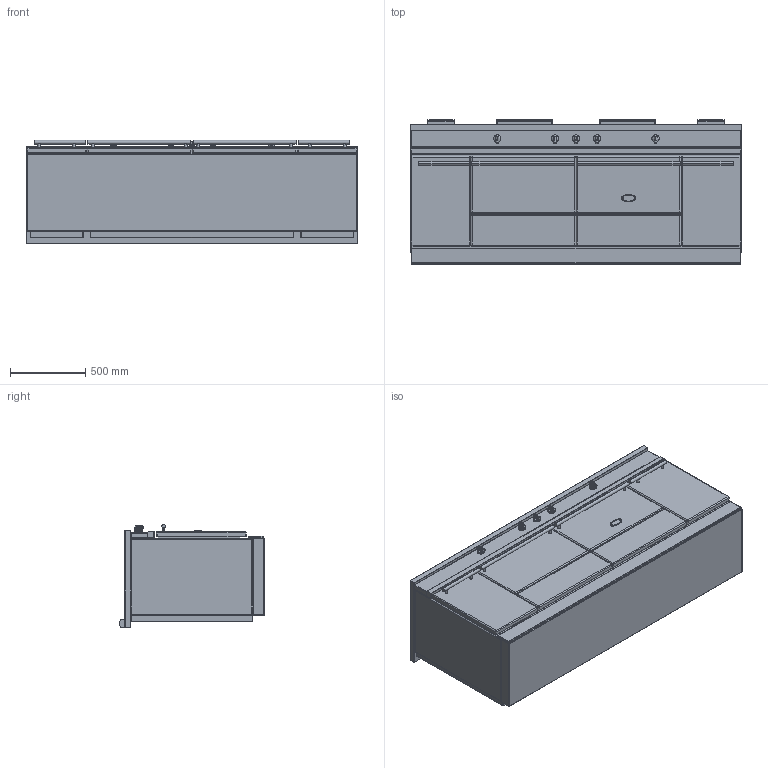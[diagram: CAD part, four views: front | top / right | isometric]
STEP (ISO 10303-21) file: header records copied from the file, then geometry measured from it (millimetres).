
FILE_DESCRIPTION((''),'2;1');
FILE_NAME('LMVI2232_ASM','2022-04-13T11:57:42',('stagiaire'),(''),'CREO PARAMETRIC BY PTC INC, 2021424','CREO PARAMETRIC BY PTC INC, 2021424','');
FILE_SCHEMA(('AP203_CONFIGURATION_CONTROLLED_3D_DESIGN_OF_MECHANICAL_PARTS_AND_ASSEMBLIES_MIM_LF { 1 0 10303 403 2 1 2 }'));
Products named in the file (13): BASE_EXPORT_SULLY_LMVI2232; 65049009; 65650001; 65064012; 19150009; 88064012_ASM; BASE_EXPORT_SULLY_LMVI2232_ASM; TABLE_SULLY_2200_INDUCTION_VTR; 65052012; CHEMINEE_2020_LG371_EXPORT_STEP; CHEMINEE_2020_LG182_EXPORT_STEP; TABLE_SULLY_2200_INDUCTION_ASM; LMVI2232_ASM
Assembly tree (18 placements, depth 4):
  LMVI2232_ASM
    BASE_EXPORT_SULLY_LMVI2232_ASM
      BASE_EXPORT_SULLY_LMVI2232
      65049009
      65650001
      88064012_ASM  x5
        65064012
        19150009
    TABLE_SULLY_2200_INDUCTION_ASM
      TABLE_SULLY_2200_INDUCTION_VTR
      65052012
      CHEMINEE_2020_LG371_EXPORT_STEP  x2
      CHEMINEE_2020_LG182_EXPORT_STEP  x2
Bounding box: 2205 x 963 x 688.5 mm (x, y, z)
Volume: 1191155191.4 mm3; surface area: 16479728.6 mm2
Topology: 23 solids, 23 shells, 3137 faces, 9134 edges, 5849 vertices
Faces by surface type: plane 1405, cylinder 1212, sphere 216, bspline 201, torus 75, cone 26, extrusion 2
Entity records: 76900 total; most frequent: CARTESIAN_POINT 18808, DIRECTION 10106, ORIENTED_EDGE 9958, EDGE_CURVE 4979, VECTOR 3616, LINE 3614, AXIS2_PLACEMENT_3D 3227, VERTEX_POINT 3165
